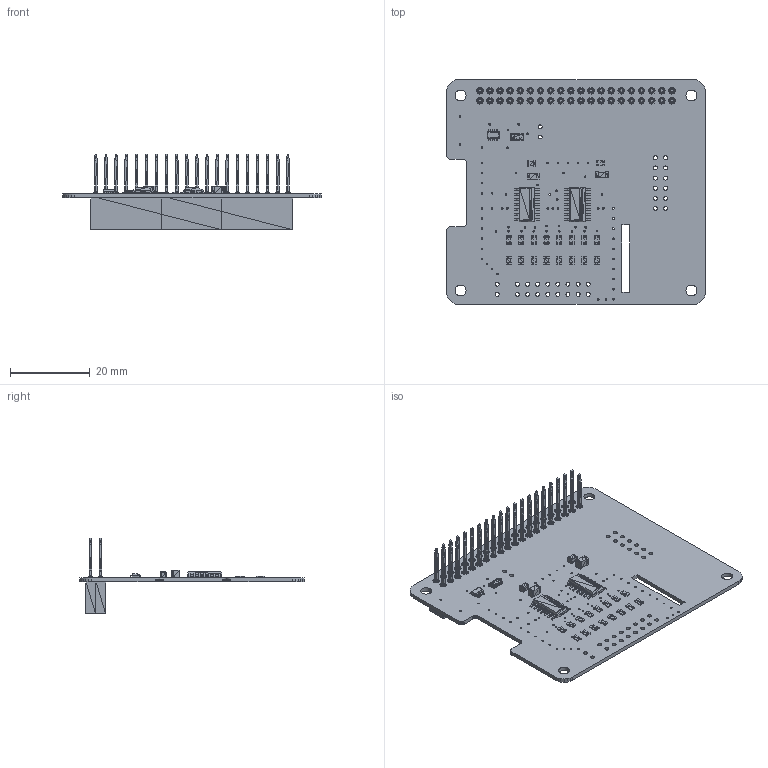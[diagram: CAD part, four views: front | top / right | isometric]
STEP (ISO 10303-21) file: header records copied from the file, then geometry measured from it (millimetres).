
FILE_DESCRIPTION(/* description */ (''),/* implementation_level */ '2;1');
FILE_NAME(/* name */ 'C:/Users/andrew/Desktop/3D Models/adc-pi-plus-1.1.step',/* time_stamp */ '2018-02-10T15:27:11+00:00',/* author */ ('and101'),/* organization */ (''),/* preprocessor_version */ 'ST-DEVELOPER v16.13',/* originating_system */ 'Autodesk Translation Framework v6.5.0.72',/* authorisation */ '');
FILE_SCHEMA (('AUTOMOTIVE_DESIGN { 1 0 10303 214 3 1 1 }'));
Products named in the file (9): adc-pi-plus; Board_adc-pi-plus; sot23-6; cap_0805; cap_1206; res_0805; rescav-8_1.6x3.2x0; soic-14_150mil; 40_way_header
Assembly tree (26 placements, depth 2):
  adc-pi-plus
    Board_adc-pi-plus
    sot23-6
    cap_0805  x2
    cap_1206  x2
    res_0805  x16
    rescav-8_1.6x3.2x0
    soic-14_150mil  x2
    40_way_header
Bounding box: 65 x 56.5 x 18.97 mm (x, y, z)
Volume: 6490.7 mm3; surface area: 12752.6 mm2
Topology: 164 solids, 164 shells, 29503 faces, 44951 edges, 15768 vertices
Faces by surface type: plane 29297, cylinder 170, bspline 36
Full cylindrical faces by diameter (mm): 0.406 x74, 1 x72, 2.75 x4
Entity records: 528442 total; most frequent: DIRECTION 94175, CARTESIAN_POINT 82795, ORIENTED_EDGE 81030, EDGE_CURVE 40515, LINE 39795, VECTOR 39795, AXIS2_PLACEMENT_3D 27190, EDGE_LOOP 26853
